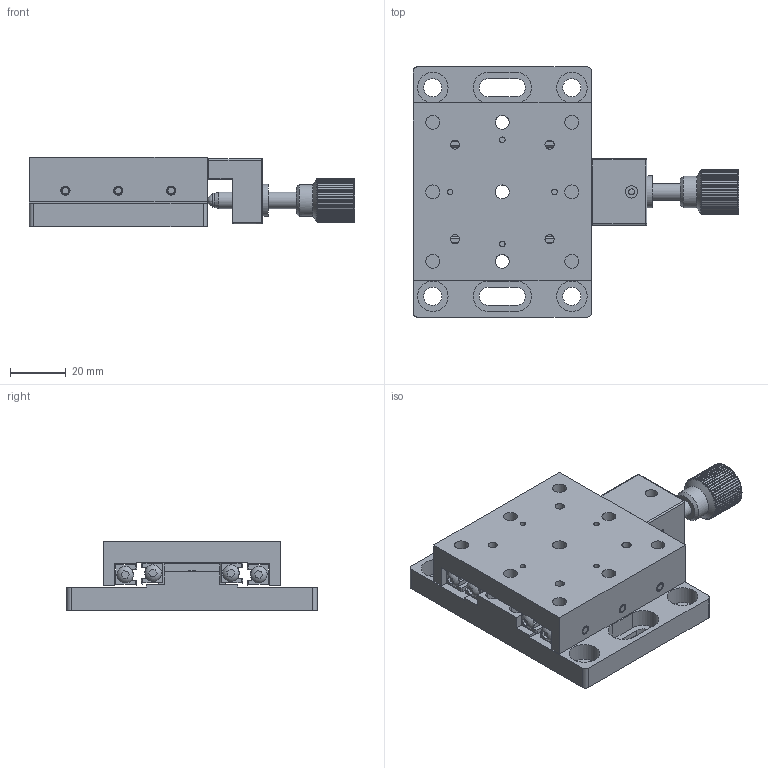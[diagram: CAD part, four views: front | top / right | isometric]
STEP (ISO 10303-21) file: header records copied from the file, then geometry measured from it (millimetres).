
FILE_DESCRIPTION (( 'STEP AP203' ), '1' );
FILE_NAME ('TCS64X-06A.step', '2017-01-10T09:18:04', ( '¦K¬P' ), ( '' ), 'SwSTEP 2.0', 'SolidWorks 2012', '' );
FILE_SCHEMA (( 'CONFIG_CONTROL_DESIGN' ));
Length unit declared in the file: millimetre
Products named in the file (1): TCS64X-06A
Bounding box: 117 x 90 x 25 mm (x, y, z)
Surface area: 41495.5 mm2 (no closed solid volume)
Topology: 0 solids, 28 shells, 477 faces, 1382 edges, 928 vertices
Faces by surface type: plane 311, cylinder 136, cone 14, torus 9, sphere 7
Full cylindrical faces by diameter (mm): 1.7 x2, 2 x8, 3 x2, 3.3 x10, 4.4 x1, 5 x15, 5.5 x2, 6 x1, 6.5 x6, 10 x1, 11 x4, 11.4 x1, 11.5 x1
Entity records: 15879 total; most frequent: CARTESIAN_POINT 3828, ORIENTED_EDGE 2387, DIRECTION 2300, EDGE_CURVE 1285, VERTEX_POINT 916, AXIS2_PLACEMENT_3D 806, LINE 688, VECTOR 688
